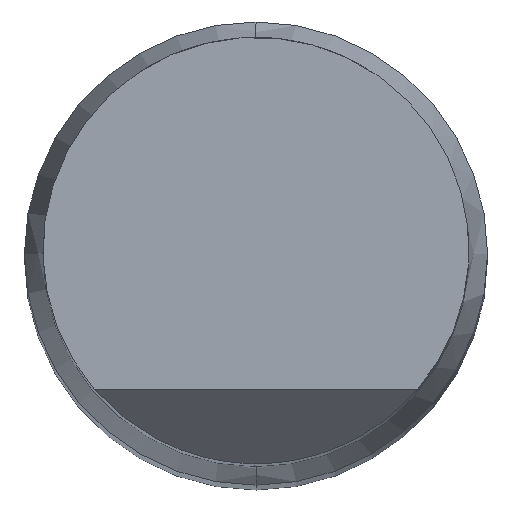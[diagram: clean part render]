
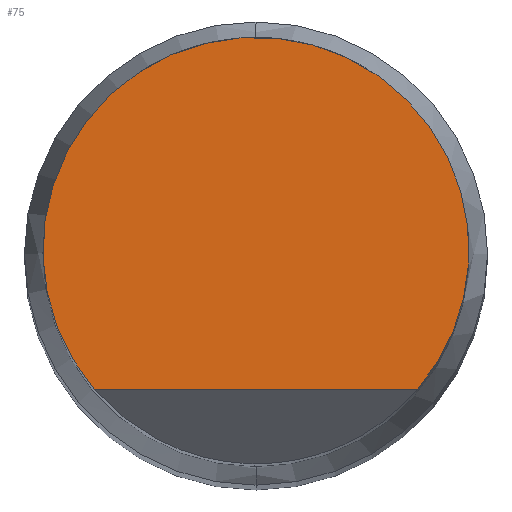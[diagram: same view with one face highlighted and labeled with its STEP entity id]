
A CAD part, top view. The second image highlights one B-rep face of the part: STEP entity #75.
In plain terms, the highlighted planar face has unit normal (0, 0, 1).
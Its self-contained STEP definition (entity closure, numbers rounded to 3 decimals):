
#75=ADVANCED_FACE('',(#100),#99,.T.);
#99=PLANE('',#345);
#100=FACE_OUTER_BOUND('',#346,.T.);
#342=CARTESIAN_POINT('',(-19.023,18.209,0.));
#343=DIRECTION('',(0.,0.,1.));
#344=DIRECTION('',(0.,-1.,0.));
#345=AXIS2_PLACEMENT_3D('',#342,#343,#344);
#346=EDGE_LOOP('',(#547,#548,#549));
#547=ORIENTED_EDGE('',*,*,#647,.F.);
#548=ORIENTED_EDGE('',*,*,#648,.F.);
#549=ORIENTED_EDGE('',*,*,#649,.T.);
#647=EDGE_CURVE('',#697,#698,#699,.T.);
#648=EDGE_CURVE('',#705,#697,#706,.T.);
#649=EDGE_CURVE('',#705,#698,#712,.T.);
#697=VERTEX_POINT('',#1028);
#698=VERTEX_POINT('',#1029);
#699=CIRCLE('',#1033,11.5);
#705=VERTEX_POINT('',#1034);
#706=CIRCLE('',#1038,11.5);
#712=LINE('',#1039,#1040);
#1028=CARTESIAN_POINT('',(11.198,-2.616,0.));
#1029=CARTESIAN_POINT('',(8.718,-7.5,0.));
#1030=CARTESIAN_POINT('',(0.,0.,0.));
#1031=DIRECTION('',(0.,0.,-1.));
#1032=DIRECTION('',(0.,-1.,0.));
#1033=AXIS2_PLACEMENT_3D('',#1030,#1031,#1032);
#1034=CARTESIAN_POINT('',(-8.718,-7.5,0.));
#1035=CARTESIAN_POINT('',(0.,0.,0.));
#1036=DIRECTION('',(0.,0.,-1.));
#1037=DIRECTION('',(0.,-1.,0.));
#1038=AXIS2_PLACEMENT_3D('',#1035,#1036,#1037);
#1039=CARTESIAN_POINT('',(-8.718,-7.5,0.));
#1040=VECTOR('',#1041,17.436);
#1041=DIRECTION('',(1.,0.,0.));
